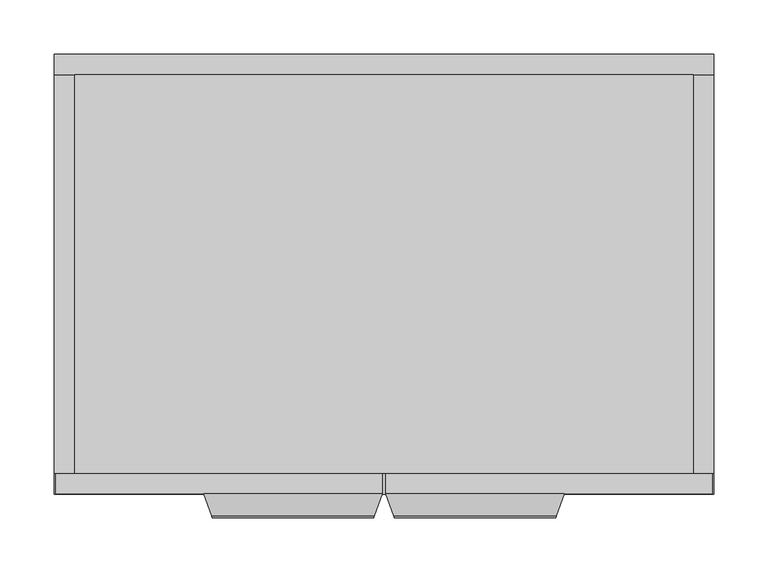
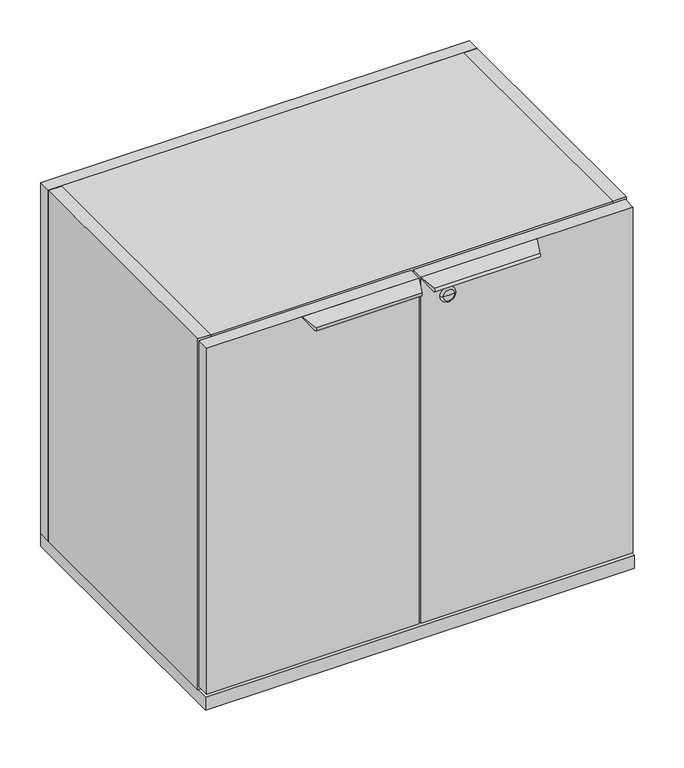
"""IFC4 building model written with IfcOpenShell, lengths in millimetres: furniture geometry, Haworth_BeHold_Modular_AttachedStorage : 1.5H - Double Doors - Proud Back - 16d 24w."""

from ifc_helpers import new_model, si_unit, point, frame, frame_2d, origin, origin_with_axes, place, context, project, spatial, polyline, circle_curve, ellipse_curve, trimmed, segment, composite_curve, outline, extrude, source, transform, mapped, element, save
from ifc_brep_helpers import plane_surface, cylinder_surface, revolved_surface, advanced_brep


def furniture_1b12cd25(model_context):
    return source(origin(), model_context, "Body", "SolidModel", [
        advanced_brep(
        [(-323.5466553, -495.3, 554.2279922), (-323.5466553, -495.3, 555.625), (-158.4466553, -495.3, 555.625), (-158.4466553, -495.3, 554.2279922), (-316.1894645, -515.5137158, 548.7077301), (-165.8038462, -515.5137158, 548.7077301), (-316.9401113, -513.4513306, 544.0850593), (-165.0531994, -513.4513306, 544.0850593)],
        [
            (0, 1),
            (1, 2),
            (2, 3),
            (3, 0),
            (1, 4),
            (4, 5),
            (5, 2),
            (4, 6, ellipse_curve(frame((-316.4889299, -514.6909412, 546.3034099), z_axis=(0.9396926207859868, 0.3420201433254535, 0.0), x_axis=(-0.3420201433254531, 0.9396926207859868, 0.0)), 2.704292, 2.5412032)),
            (6, 7),
            (7, 5, ellipse_curve(frame((-165.5043808, -514.6909412, 546.3034099), z_axis=(-0.9396926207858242, 0.34202014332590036, 0.0), x_axis=(-0.34202014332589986, -0.9396926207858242, 0.0)), 2.704292, 2.5412032)),
            (3, 7),
            (6, 0),
        ],
        [
            plane_surface(frame((-323.5466553, -495.3, 554.2279922), z_axis=(0.0, 1.0, 0.0), x_axis=(1.0, 0.0, 0.0))),
            plane_surface(frame((-323.5466553, -495.3, 555.625), z_axis=(0.0, -0.3237736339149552, 0.9461345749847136), x_axis=(1.0, 0.0, 0.0))),
            cylinder_surface(frame((-323.5466553, -514.6909412, 546.3034099), z_axis=(-1.0, 0.0, 0.0), x_axis=(0.0, -1.0, 0.0)), 2.5412032),
            plane_surface(frame((-323.5466553, -513.4513306, 544.0850593), z_axis=(0.0, 0.4878045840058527, -0.8729528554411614), x_axis=(1.0, 0.0, 0.0))),
            plane_surface(frame((-168.0844052, -521.7795, 646.1621094), z_axis=(0.9396926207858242, -0.34202014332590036, 0.0), x_axis=(0.0, 0.0, -1.0))),
            plane_surface(frame((-323.5466553, -495.3, 646.1621094), z_axis=(-0.9396926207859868, -0.3420201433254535, 0.0), x_axis=(0.0, 0.0, -1.0))),
        ],
        [
            (0, [[1, 2, 3, 4]]),
            (1, [[5, 6, 7, -2]]),
            (2, [[8, 9, 10, -6]]),
            (3, [[11, -9, 12, -4]]),
            (4, [[-7, -10, -11, -3]]),
            (5, [[-12, -8, -5, -1]]),
        ],
    ),
        extrude(outline(polyline([(-460.0716553, -495.3), (-460.0716553, -476.25), (-158.4466553, -476.25), (-158.4466553, -495.3), (-460.0716553, -495.3)])), frame((0.0, 0.0, 35.9171875), z_axis=(0.0, 0.0, 1.0), x_axis=(1.0, 0.0, 0.0)), (0.0, 0.0, 1.0), 519.7078125),
        advanced_brep(
        [(9.8283447, -495.3, 554.2279922), (-155.2716553, -495.3, 554.2279922), (-155.2716553, -495.3, 555.625), (9.8283447, -495.3, 555.625), (-147.9144645, -515.5137158, 548.7077301), (2.4711538, -515.5137158, 548.7077301), (-148.6651113, -513.4513306, 544.0850593), (3.2218006, -513.4513306, 544.0850593)],
        [
            (0, 1),
            (1, 2),
            (2, 3),
            (3, 0),
            (2, 4),
            (4, 5),
            (5, 3),
            (4, 6, ellipse_curve(frame((-148.2139299, -514.6909412, 546.3034099), z_axis=(0.9396926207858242, 0.34202014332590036, 0.0), x_axis=(0.34202014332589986, -0.9396926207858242, 0.0)), 2.704292, 2.5412032)),
            (6, 7),
            (7, 5, ellipse_curve(frame((2.7706192, -514.6909412, 546.3034099), z_axis=(-0.9396926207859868, 0.3420201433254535, 0.0), x_axis=(0.3420201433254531, 0.9396926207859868, 0.0)), 2.704292, 2.5412032)),
            (0, 7),
            (6, 1),
        ],
        [
            plane_surface(frame((9.8283447, -495.3, 554.2279922), z_axis=(0.0, 1.0, 0.0), x_axis=(-1.0, 0.0, 0.0))),
            plane_surface(frame((9.8283447, -495.3, 555.625), z_axis=(0.0, -0.3237736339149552, 0.9461345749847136), x_axis=(-1.0, 0.0, 0.0))),
            cylinder_surface(frame((9.8283447, -514.6909412, 546.3034099), z_axis=(1.0, 0.0, 0.0), x_axis=(0.0, -1.0, 0.0)), 2.5412032),
            plane_surface(frame((9.8283447, -513.4513306, 544.0850593), z_axis=(0.0, 0.4878045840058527, -0.8729528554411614), x_axis=(-1.0, 0.0, 0.0))),
            plane_surface(frame((-145.6339055, -521.7795, 646.1621094), z_axis=(-0.9396926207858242, -0.34202014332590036, 0.0), x_axis=(0.0, 0.0, -1.0))),
            plane_surface(frame((9.8283447, -495.3, 646.1621094), z_axis=(0.9396926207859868, -0.3420201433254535, 0.0), x_axis=(0.0, 0.0, -1.0))),
        ],
        [
            (0, [[1, 2, 3, 4]]),
            (1, [[-3, 5, 6, 7]]),
            (2, [[-6, 8, 9, 10]]),
            (3, [[-1, 11, -9, 12]]),
            (4, [[-2, -12, -8, -5]]),
            (5, [[-4, -7, -10, -11]]),
        ],
    ),
        advanced_brep(
        [(-125.2354311, -498.4753876, 517.652), (-109.3618796, -498.4753876, 517.652), (-117.2986553, -498.4753876, 517.652), (-128.4119305, -495.3, 517.652), (-106.1853802, -495.3, 517.652), (-117.2986553, -495.3, 517.652)],
        [
            (0, 1, circle_curve(frame((-117.2986553, -498.4753876, 517.652), z_axis=(0.0, -1.0, 0.0), x_axis=(1.0, 0.0, 0.0)), 7.9367757)),
            (1, 2),
            (2, 0),
            (1, 0, circle_curve(frame((-117.2986553, -498.4753876, 517.652), z_axis=(0.0, -1.0, 0.0), x_axis=(1.0, 0.0, 0.0)), 7.9367757)),
            (3, 4, circle_curve(frame((-117.2986553, -495.3, 517.652), z_axis=(0.0, -1.0, 0.0), x_axis=(1.0, 0.0, 0.0)), 11.1132751)),
            (4, 1, circle_curve(frame((-109.3618796, -495.298888, 517.652), z_axis=(0.0, 0.0, -1.0), x_axis=(0.0, -1.0, 0.0)), 3.1764996)),
            (0, 3, circle_curve(frame((-125.2354311, -495.298888, 517.652), z_axis=(0.0, 0.0, -1.0), x_axis=(0.0, -1.0, 0.0)), 3.1764996)),
            (4, 3, circle_curve(frame((-117.2986553, -495.3, 517.652), z_axis=(0.0, -1.0, 0.0), x_axis=(1.0, 0.0, 0.0)), 11.1132751)),
            (5, 4),
            (3, 5),
        ],
        [
            plane_surface(frame((-117.2986553, -498.4753876, 517.652), z_axis=(0.0, -1.0, 0.0), x_axis=(1.0, 0.0, 0.0))),
            revolved_surface(trimmed(ellipse_curve(frame((-109.3618796, -495.298888, 517.652), z_axis=(0.0, 0.0, 1.0), x_axis=(0.0, -1.0, 0.0)), 3.1764996, 3.1764996), [point((-109.3618796, -498.4753876, 517.652))], [point((-106.1853802, -495.3, 517.652))], True, "CARTESIAN"), (-117.2986553, -457.2, 517.652), (0.0, 1.0, 0.0)),
            plane_surface(frame((-117.2986553, -495.3, 517.652), z_axis=(0.0, 1.0, 0.0), x_axis=(1.0, 0.0, 0.0))),
        ],
        [
            (0, [[1, 2, 3]]),
            (0, [[4, -3, -2]]),
            (1, [[5, 6, -1, 7]]),
            (1, [[8, -7, -4, -6]]),
            (2, [[9, -5, 10]]),
            (2, [[-10, -8, -9]]),
        ],
    ),
        extrude(outline(polyline([(146.3533447, -495.3), (-155.2716553, -495.3), (-155.2716553, -476.25), (146.3533447, -476.25), (146.3533447, -495.3)])), frame((0.0, 0.0, 35.9171875), z_axis=(0.0, 0.0, 1.0), x_axis=(1.0, 0.0, 0.0)), (0.0, 0.0, 1.0), 519.7078125),
        extrude(outline(polyline([(128.8908447, -107.95), (128.8908447, -476.25), (-442.6091553, -476.25), (-442.6091553, -107.95), (128.8908447, -107.95)])), frame((0.0, 0.0, 539.75), z_axis=(0.0, 0.0, 1.0), x_axis=(1.0, 0.0, 0.0)), (0.0, 0.0, 1.0), 19.05),
        extrude(outline(polyline([(128.8908447, -107.95), (128.8908447, -476.25), (-442.6091553, -476.25), (-442.6091553, -107.95), (128.8908447, -107.95)])), frame((0.0, 0.0, 351.3335938), z_axis=(0.0, 0.0, 1.0), x_axis=(1.0, 0.0, 0.0)), (0.0, 0.0, 1.0), 19.05),
        extrude(outline(polyline([(147.9408447, -107.95), (-461.6591553, -107.95), (-461.6591553, -88.9), (147.9408447, -88.9), (147.9408447, -107.95)])), frame((0.0, 0.0, 31.75), z_axis=(0.0, 0.0, 1.0), x_axis=(1.0, 0.0, 0.0)), (0.0, 0.0, 1.0), 527.05),
        extrude(outline(polyline([(147.9408447, -107.95), (147.9408447, -476.25), (128.8908447, -476.25), (128.8908447, -107.95), (147.9408447, -107.95)])), frame((0.0, 0.0, 31.75), z_axis=(0.0, 0.0, 1.0), x_axis=(1.0, 0.0, 0.0)), (0.0, 0.0, 1.0), 527.05),
        extrude(outline(polyline([(-461.6591553, -476.25), (-461.6591553, -107.95), (-442.6091553, -107.95), (-442.6091553, -476.25), (-461.6591553, -476.25)])), frame((0.0, 0.0, 31.75), z_axis=(0.0, 0.0, 1.0), x_axis=(1.0, 0.0, 0.0)), (0.0, 0.0, 1.0), 527.05),
        extrude(outline(polyline([(147.9408447, -88.9), (147.9408447, -495.3), (-461.6591553, -495.3), (-461.6591553, -88.9), (147.9408447, -88.9)])), frame((0.0, 0.0, 12.7), z_axis=(0.0, 0.0, 1.0), x_axis=(1.0, 0.0, 0.0)), (0.0, 0.0, 1.0), 19.05),
        extrude(outline(composite_curve([segment(polyline([(128.8908447, -114.3), (128.8908447, -158.7999969)]), True, "CONTINUOUS"), segment(trimmed(circle_curve(frame_2d((122.5408447, -158.7999969)), 6.35), [point((128.8908447, -158.7999969))], [point((122.5408447, -165.1499969))], False, "CARTESIAN"), True, "CONTINUOUS"), segment(polyline([(122.5408447, -165.1499969), (111.0907684, -165.1499969), (71.6908477, -125.7500763), (71.6908477, -114.3)]), True, "CONTINUOUS"), segment(trimmed(circle_curve(frame_2d((78.0408477, -114.3)), 6.35), [point((71.6908477, -114.3))], [point((78.0408477, -107.95))], False, "CARTESIAN"), True, "CONTINUOUS"), segment(polyline([(78.0408477, -107.95), (122.5408447, -107.95)]), True, "CONTINUOUS"), segment(trimmed(circle_curve(frame_2d((122.5408447, -114.3)), 6.35), [point((122.5408447, -107.95))], [point((128.8908447, -114.3))], False, "CARTESIAN"), True, "CONTINUOUS")], self_intersect=False)), origin_with_axes(), (0.0, 0.0, 1.0), 12.7),
        extrude(outline(composite_curve([segment(trimmed(circle_curve(frame_2d((122.5408447, -469.9)), 6.35), [point((128.8908447, -469.9))], [point((122.5408447, -476.25))], False, "CARTESIAN"), True, "CONTINUOUS"), segment(polyline([(122.5408447, -476.25), (78.0408477, -476.25)]), True, "CONTINUOUS"), segment(trimmed(circle_curve(frame_2d((78.0408477, -469.9)), 6.35), [point((78.0408477, -476.25))], [point((71.6908477, -469.9))], False, "CARTESIAN"), True, "CONTINUOUS"), segment(polyline([(71.6908477, -469.9), (71.6908477, -458.4499237), (111.0907684, -419.0500031), (122.5408447, -419.0500031)]), True, "CONTINUOUS"), segment(trimmed(circle_curve(frame_2d((122.5408447, -425.4000031)), 6.35), [point((122.5408447, -419.0500031))], [point((128.8908447, -425.4000031))], False, "CARTESIAN"), True, "CONTINUOUS"), segment(polyline([(128.8908447, -425.4000031), (128.8908447, -469.9)]), True, "CONTINUOUS")], self_intersect=False)), origin_with_axes(), (0.0, 0.0, 1.0), 12.7),
        extrude(outline(composite_curve([segment(trimmed(circle_curve(frame_2d((-436.2591553, -114.3)), 6.35), [point((-442.6091553, -114.3))], [point((-436.2591553, -107.95))], False, "CARTESIAN"), True, "CONTINUOUS"), segment(polyline([(-436.2591553, -107.95), (-391.7591584, -107.95)]), True, "CONTINUOUS"), segment(trimmed(circle_curve(frame_2d((-391.7591584, -114.3)), 6.35), [point((-391.7591584, -107.95))], [point((-385.4091584, -114.3))], False, "CARTESIAN"), True, "CONTINUOUS"), segment(polyline([(-385.4091584, -114.3), (-385.4091584, -125.7500763), (-424.809079, -165.1499969), (-436.2591553, -165.1499969)]), True, "CONTINUOUS"), segment(trimmed(circle_curve(frame_2d((-436.2591553, -158.7999969)), 6.35), [point((-436.2591553, -165.1499969))], [point((-442.6091553, -158.7999969))], False, "CARTESIAN"), True, "CONTINUOUS"), segment(polyline([(-442.6091553, -158.7999969), (-442.6091553, -114.3)]), True, "CONTINUOUS")], self_intersect=False)), origin_with_axes(), (0.0, 0.0, 1.0), 12.7),
        extrude(outline(composite_curve([segment(polyline([(-442.6091553, -469.9), (-442.6091553, -425.4000031)]), True, "CONTINUOUS"), segment(trimmed(circle_curve(frame_2d((-436.2591553, -425.4000031)), 6.35), [point((-442.6091553, -425.4000031))], [point((-436.2591553, -419.0500031))], False, "CARTESIAN"), True, "CONTINUOUS"), segment(polyline([(-436.2591553, -419.0500031), (-424.809079, -419.0500031), (-385.4091584, -458.4499237), (-385.4091584, -469.9)]), True, "CONTINUOUS"), segment(trimmed(circle_curve(frame_2d((-391.7591584, -469.9)), 6.35), [point((-385.4091584, -469.9))], [point((-391.7591584, -476.25))], False, "CARTESIAN"), True, "CONTINUOUS"), segment(polyline([(-391.7591584, -476.25), (-436.2591553, -476.25)]), True, "CONTINUOUS"), segment(trimmed(circle_curve(frame_2d((-436.2591553, -469.9)), 6.35), [point((-436.2591553, -476.25))], [point((-442.6091553, -469.9))], False, "CARTESIAN"), True, "CONTINUOUS")], self_intersect=False)), origin_with_axes(), (0.0, 0.0, 1.0), 12.7),
    ])


if __name__ == "__main__":
    model = new_model("IFC4")
    model_context = context("Model", 3, world=origin())
    ifc_project = project(units=[si_unit("LENGTHUNIT", "METRE", prefix="MILLI")], contexts=[model_context])
    site = spatial("IfcSite", under=ifc_project)
    building = spatial("IfcBuilding", under=site)
    placement = place(None, origin())
    furniture_shape = furniture_1b12cd25(model_context)
    element("IfcFurniture", 1, ObjectType="Haworth_BeHold_Modular_AttachedStorage : 1.5H - Double Doors - Proud Back - 16d 24w", at=placement, inside=building, context=model_context, shape_type="MappedRepresentation", body=[
        mapped(furniture_shape, transform((0.0, 0.0, 0.0), x_axis=(1.0, 0.0, 0.0), y_axis=(0.0, 1.0, 0.0), z_axis=(0.0, 0.0, 1.0))),
    ])
    save(model, "model.ifc")
